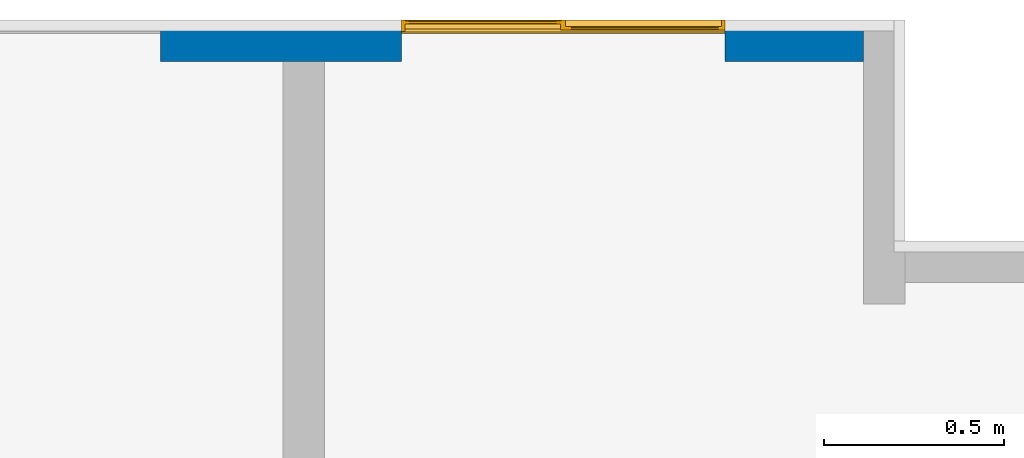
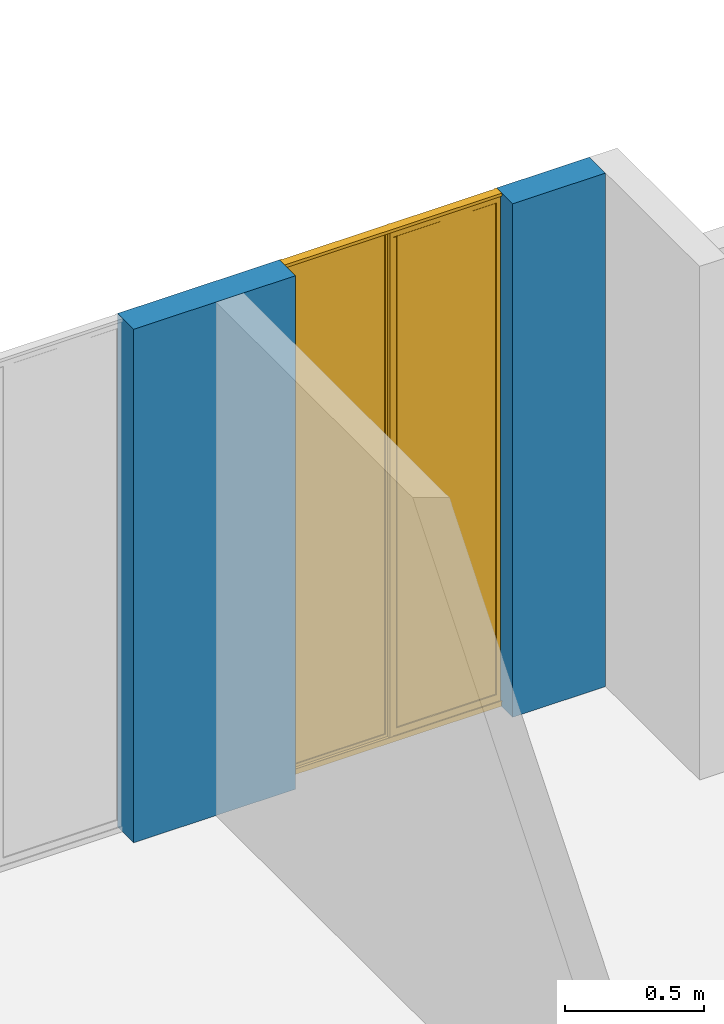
# One storey, part 17 of 47: 1 wall, 1 window, 2 openings.
"""IFC4 building model written with IfcOpenShell, lengths in metres."""

import ifcopenshell
import ifcopenshell.guid

model = None  # the IFC model being written
_history = None  # IfcOwnerHistory: only IFC2X3 demands one
_inside = {}  # id of a spatial element -> (the spatial element, [elements in it])
_under = {}  # id of a project, library or spatial element -> (it, [spatial elements below it])
_declared = {}  # id of a project -> (the project, [libraries it declares])
_typed = {}  # id of a type object -> (the type object, [elements of that type])
_made_of = {}  # id of a material, layer set ... -> (it, [elements and type objects made of it])


def new_model(schema):
    """Start an empty IFC model of exactly this schema.

    Asked for "IFC4X3", IfcOpenShell would pick the latest addendum, in which some entities
    have other attributes; the version numbers below select the first issue.
    IFC2X3 requires an IfcOwnerHistory on every rooted entity: one is made here for all.
    """
    global model, _history
    if schema == "IFC4X3":
        model = ifcopenshell.file(schema_version=(4, 3, 0, 0))
    else:
        model = ifcopenshell.file(schema=schema)
    _inside.clear()
    _under.clear()
    _declared.clear()
    _typed.clear()
    _made_of.clear()
    _history = None
    if model.schema == "IFC2X3":
        org = make("IfcOrganization", Name="unknown")
        user = make(
            "IfcPersonAndOrganization",
            ThePerson=make("IfcPerson", FamilyName="unknown"),
            TheOrganization=org,
        )
        app = make(
            "IfcApplication",
            ApplicationDeveloper=org,
            Version="unknown",
            ApplicationFullName="unknown",
            ApplicationIdentifier="unknown",
        )
        _history = make(
            "IfcOwnerHistory",
            OwningUser=user,
            OwningApplication=app,
            ChangeAction="ADDED",
            CreationDate=0,
        )
    return model


def make(cls, **values):
    """One entity of the class cls with the attributes given. An attribute that is None is left unset."""
    return model.create_entity(
        cls, **{name: value for name, value in values.items() if value is not None}
    )


def entity(cls, *values):
    """Any entity or typed value of the class cls, its attributes in the order of the schema. None: left unset."""
    e = model.create_entity(cls)
    for i, value in enumerate(values):
        if value is not None:
            e[i] = value
    return e


def rooted(cls, **values):
    """An entity with a GlobalId (a new one), such as an element, a storey or a relation."""
    return make(cls, GlobalId=ifcopenshell.guid.new(), OwnerHistory=_history, **values)


def si_unit(unit_type, name, prefix=None):
    """IfcSIUnit, for example si_unit("LENGTHUNIT", "METRE", prefix="MILLI")."""
    return make("IfcSIUnit", UnitType=unit_type, Prefix=prefix, Name=name)


def converted_unit(unit_type, name, factor, base, dimensions=None, offset=None):
    """IfcConversionBasedUnit, such as the inch: factor (a typed value) times the base unit."""
    return make(
        "IfcConversionBasedUnit"
        if offset is None
        else "IfcConversionBasedUnitWithOffset",
        ConversionOffset=offset,
        Dimensions=None
        if dimensions is None
        else entity("IfcDimensionalExponents", *dimensions),
        UnitType=unit_type,
        Name=name,
        ConversionFactor=make(
            "IfcMeasureWithUnit", ValueComponent=factor, UnitComponent=base
        ),
    )


def derived_unit(unit_type, elements):
    """IfcDerivedUnit: a product of units, each with its exponent."""
    return make(
        "IfcDerivedUnit",
        Elements=[
            make("IfcDerivedUnitElement", Unit=unit, Exponent=power)
            for unit, power in elements
        ],
        UnitType=unit_type,
    )


def assignment(units):
    """IfcUnitAssignment: the units of a project."""
    return None if units is None else make("IfcUnitAssignment", Units=units)


def point(xyz):
    """IfcCartesianPoint."""
    return None if xyz is None else make("IfcCartesianPoint", Coordinates=xyz)


def direction(xyz):
    """IfcDirection."""
    return None if xyz is None else make("IfcDirection", DirectionRatios=xyz)


def frame(location, z_axis=None, x_axis=None):
    """IfcAxis2Placement3D, a coordinate frame: its origin and axes. An axis left out is left unset."""
    return make(
        "IfcAxis2Placement3D",
        Location=point(location),
        Axis=direction(z_axis),
        RefDirection=direction(x_axis),
    )


def origin():
    """The frame at (0, 0, 0) with its axes left unset."""
    return frame((0.0, 0.0, 0.0))


def place(relative_to, where):
    """IfcLocalPlacement: puts the frame where relative to a parent placement (None: the world)."""
    return make(
        "IfcLocalPlacement", PlacementRelTo=relative_to, RelativePlacement=where
    )


def context(
    kind, dimensions, precision=None, world=None, true_north=None, identifier=None
):
    """IfcGeometricRepresentationContext, for example the 3D "Model" context."""
    return make(
        "IfcGeometricRepresentationContext",
        ContextIdentifier=identifier,
        ContextType=kind,
        CoordinateSpaceDimension=dimensions,
        Precision=precision,
        WorldCoordinateSystem=world,
        TrueNorth=true_north,
    )


def subcontext(parent, identifier, kind, view, scale=None):
    """IfcGeometricRepresentationSubContext, for example "Body" below "Model"."""
    return make(
        "IfcGeometricRepresentationSubContext",
        ContextIdentifier=identifier,
        ContextType=kind,
        ParentContext=parent,
        TargetScale=scale,
        TargetView=view,
    )


def project(units=None, contexts=None):
    """IfcProject with its units and contexts."""
    return rooted(
        "IfcProject",
        Name="project",
        RepresentationContexts=contexts,
        UnitsInContext=assignment(units),
    )


def spatial(cls, under=None, at=None, **own):
    """A site, building, storey or space (cls), placed at a placement, below another one or the project."""
    s = rooted(cls, ObjectPlacement=at, **own)
    if under is not None:
        _under.setdefault(under.id(), (under, []))[1].append(s)
    return s


def point_list(points):
    """IfcCartesianPointList2D or 3D."""
    cls = (
        "IfcCartesianPointList2D" if len(points[0]) == 2 else "IfcCartesianPointList3D"
    )
    return make(cls, CoordList=points)


def indexed_curve(points, segments=None, self_intersect=None):
    """IfcIndexedPolyCurve: lines and arcs through numbered points (the first is 1)."""
    return make(
        "IfcIndexedPolyCurve",
        Points=point_list(points),
        Segments=segments,
        SelfIntersect=self_intersect,
    )


def outline(outer, holes=None, kind="AREA"):
    """IfcArbitraryClosedProfileDef: a profile drawn as a closed curve; with holes, ...WithVoids."""
    if holes is None:
        return make("IfcArbitraryClosedProfileDef", ProfileType=kind, OuterCurve=outer)
    return make(
        "IfcArbitraryProfileDefWithVoids",
        ProfileType=kind,
        OuterCurve=outer,
        InnerCurves=holes,
    )


def extrude(swept, where, along, depth):
    """IfcExtrudedAreaSolid: the profile swept, set in the frame where, extruded along a direction by depth."""
    return make(
        "IfcExtrudedAreaSolid",
        SweptArea=swept,
        Position=where,
        ExtrudedDirection=direction(along),
        Depth=depth,
    )


def polygons(points, faces, closed=None, point_numbers=None):
    """IfcPolygonalFaceSet: a face is its outer loop, then its inner loops; points numbered from 1."""
    made = []
    for loops in faces:
        if len(loops) == 1:
            made.append(make("IfcIndexedPolygonalFace", CoordIndex=loops[0]))
        else:
            made.append(
                make(
                    "IfcIndexedPolygonalFaceWithVoids",
                    CoordIndex=loops[0],
                    InnerCoordIndices=loops[1:],
                )
            )
    return make(
        "IfcPolygonalFaceSet",
        Coordinates=point_list(points),
        Closed=closed,
        Faces=made,
        PnIndex=point_numbers,
    )


def shape(context_of_items, identifier, shape_type, items):
    """IfcShapeRepresentation: the items that make up one representation, for example the "Body"."""
    return make(
        "IfcShapeRepresentation",
        ContextOfItems=context_of_items,
        RepresentationIdentifier=identifier,
        RepresentationType=shape_type,
        Items=items,
    )


def source(mapping_origin, context_of_items, identifier, shape_type, items):
    """IfcRepresentationMap: a shape defined once, which mapped items show again and again."""
    return make(
        "IfcRepresentationMap",
        MappingOrigin=mapping_origin,
        MappedRepresentation=shape(context_of_items, identifier, shape_type, items),
    )


def transform(
    local_origin,
    x_axis=None,
    y_axis=None,
    z_axis=None,
    scale=None,
    scale2=None,
    scale3=None,
    uniform=True,
):
    """IfcCartesianTransformationOperator3D, or its non-uniform kind. x_axis, y_axis, z_axis: its Axis1, 2, 3."""
    if uniform:
        return make(
            "IfcCartesianTransformationOperator3D",
            Axis1=direction(x_axis),
            Axis2=direction(y_axis),
            LocalOrigin=point(local_origin),
            Scale=scale,
            Axis3=direction(z_axis),
        )
    return make(
        "IfcCartesianTransformationOperator3DnonUniform",
        Axis1=direction(x_axis),
        Axis2=direction(y_axis),
        LocalOrigin=point(local_origin),
        Scale=scale,
        Axis3=direction(z_axis),
        Scale2=scale2,
        Scale3=scale3,
    )


def mapped(mapping_source, mapping_target):
    """IfcMappedItem: shows the shape of a source again, moved by a transform."""
    return make(
        "IfcMappedItem", MappingSource=mapping_source, MappingTarget=mapping_target
    )


def material(Name=None, Category=None):
    """IfcMaterial."""
    return make("IfcMaterial", Name=Name, Category=Category)


def constituent(of_material, Name=None, Category=None, fraction=None):
    """IfcMaterialConstituent: one of the materials an element consists of."""
    return make(
        "IfcMaterialConstituent",
        Name=Name,
        Material=of_material,
        Fraction=fraction,
        Category=Category,
    )


def constituent_set(constituents=None, Name=None):
    """IfcMaterialConstituentSet."""
    return make(
        "IfcMaterialConstituentSet", Name=Name, MaterialConstituents=constituents
    )


def made_of(thing, what):
    """Note that an element or type object is made of a material, layer set ...; save() writes the relation."""
    if what is not None:
        _made_of.setdefault(what.id(), (what, []))[1].append(thing)
    return thing


def type_object(cls, material=None, **own):
    """A type object (cls), such as IfcWallType, which elements share."""
    return made_of(rooted(cls, **own), material)


def type_shapes(of_type, sources):
    """Give a type object the sources (RepresentationMaps) that its elements show as mapped items."""
    of_type.RepresentationMaps = sources


def element(
    cls,
    number,
    at=None,
    inside=None,
    cuts=None,
    type_object=None,
    material=None,
    context=None,
    identifier="Body",
    shape_type=None,
    held_by="IfcProductDefinitionShape",
    body=None,
    shapes=None,
    **own,
):
    """One element of the class cls, such as IfcWall. Its Tag is "e" and its number.

    at: its placement. inside: the storey or other place that contains it. cuts: it is an
    opening in that element (IfcRelVoidsElement). A single representation is given by context,
    identifier, shape_type and body (its items); several are given by shapes. held_by: the class
    of the entity that holds the representations. save() writes the other relations.
    """
    e = rooted(cls, Tag="e%d" % number, ObjectPlacement=at, **own)
    if body is not None:
        shapes = [shape(context, identifier, shape_type, body)]
    if shapes is not None:
        e.Representation = make(held_by, Representations=shapes)
    if inside is not None:
        _inside.setdefault(inside.id(), (inside, []))[1].append(e)
    if cuts is not None:
        rooted(
            "IfcRelVoidsElement", RelatingBuildingElement=cuts, RelatedOpeningElement=e
        )
    if type_object is not None:
        _typed.setdefault(type_object.id(), (type_object, []))[1].append(e)
    return made_of(e, material)


def fill(opening, filler):
    """IfcRelFillsElement: the door or window that sits in an opening."""
    return rooted(
        "IfcRelFillsElement",
        RelatingOpeningElement=opening,
        RelatedBuildingElement=filler,
    )


def aggregate(whole, parts):
    """IfcRelAggregates: a whole, such as a stair, and the parts it consists of."""
    return rooted("IfcRelAggregates", RelatingObject=whole, RelatedObjects=parts)


def save(model, path):
    """Write the relations noted so far, then the file.

    IfcRelAggregates (storeys below a building ...), IfcRelContainedInSpatialStructure (elements
    in a storey), IfcRelDefinesByType, IfcRelAssociatesMaterial and IfcRelDeclares: one each for
    every whole, place, type object, material and project.
    """
    for whole, parts in _under.values():
        aggregate(whole, parts)
    for where, things in _inside.values():
        rooted(
            "IfcRelContainedInSpatialStructure",
            RelatedElements=things,
            RelatingStructure=where,
        )
    for kind, things in _typed.values():
        rooted("IfcRelDefinesByType", RelatedObjects=things, RelatingType=kind)
    for what, things in _made_of.values():
        rooted("IfcRelAssociatesMaterial", RelatedObjects=things, RelatingMaterial=what)
    for by, libraries in _declared.values():
        rooted("IfcRelDeclares", RelatingContext=by, RelatedDefinitions=libraries)
    model.write(path)


model = new_model("IFC4")

# Units and contexts
model_context = context("Model", 3, precision=1e-05, world=origin(), true_north=direction((6.123031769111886e-17, 1.0)))
body_context = subcontext(model_context, "Body", "Model", "MODEL_VIEW")
ifc_project = project(units=[si_unit("LENGTHUNIT", "METRE"), si_unit("AREAUNIT", "SQUARE_METRE"), si_unit("VOLUMEUNIT", "CUBIC_METRE"), converted_unit("PLANEANGLEUNIT", "DEGREE", entity("IfcRatioMeasure", 0.017453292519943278), si_unit("PLANEANGLEUNIT", "RADIAN"), dimensions=[0, 0, 0, 0, 0, 0, 0]), si_unit("MASSUNIT", "GRAM", prefix="KILO"), derived_unit("MASSDENSITYUNIT", [(si_unit("MASSUNIT", "GRAM", prefix="KILO"), 1), (si_unit("LENGTHUNIT", "METRE"), -3)]), derived_unit("IONCONCENTRATIONUNIT", [(si_unit("MASSUNIT", "GRAM", prefix="KILO"), 1), (si_unit("LENGTHUNIT", "METRE"), -3)]), derived_unit("MOMENTOFINERTIAUNIT", [(si_unit("LENGTHUNIT", "METRE"), 4)]), si_unit("TIMEUNIT", "SECOND"), si_unit("FREQUENCYUNIT", "HERTZ"), si_unit("THERMODYNAMICTEMPERATUREUNIT", "DEGREE_CELSIUS"), derived_unit("THERMALTRANSMITTANCEUNIT", [(si_unit("MASSUNIT", "GRAM", prefix="KILO"), 1), (si_unit("THERMODYNAMICTEMPERATUREUNIT", "KELVIN"), -1), (si_unit("TIMEUNIT", "SECOND"), -3)]), derived_unit("THERMALCONDUCTANCEUNIT", [(si_unit("MASSUNIT", "GRAM", prefix="KILO"), 1), (si_unit("THERMODYNAMICTEMPERATUREUNIT", "KELVIN"), -1), (si_unit("TIMEUNIT", "SECOND"), -3), (si_unit("LENGTHUNIT", "METRE"), 1)]), derived_unit("VOLUMETRICFLOWRATEUNIT", [(si_unit("LENGTHUNIT", "METRE"), 3), (si_unit("TIMEUNIT", "SECOND"), -1)]), derived_unit("MASSFLOWRATEUNIT", [(si_unit("MASSUNIT", "GRAM", prefix="KILO"), 1), (si_unit("TIMEUNIT", "SECOND"), -1)]), derived_unit("ROTATIONALFREQUENCYUNIT", [(si_unit("TIMEUNIT", "SECOND"), -1)]), si_unit("ELECTRICCURRENTUNIT", "AMPERE"), si_unit("ELECTRICVOLTAGEUNIT", "VOLT"), si_unit("POWERUNIT", "WATT"), si_unit("FORCEUNIT", "NEWTON", prefix="KILO"), si_unit("ILLUMINANCEUNIT", "LUX"), si_unit("LUMINOUSFLUXUNIT", "LUMEN"), si_unit("LUMINOUSINTENSITYUNIT", "CANDELA"), derived_unit("USERDEFINED", [(si_unit("MASSUNIT", "GRAM", prefix="KILO"), -1), (si_unit("LENGTHUNIT", "METRE"), -2), (si_unit("TIMEUNIT", "SECOND"), 3), (si_unit("LUMINOUSFLUXUNIT", "LUMEN"), 1)]), derived_unit("USERDEFINED", [(si_unit("MASSUNIT", "GRAM", prefix="KILO"), 1), (si_unit("TIMEUNIT", "SECOND"), -3), (si_unit("LENGTHUNIT", "METRE"), 3), (si_unit("ELECTRICCURRENTUNIT", "AMPERE"), -2)]), derived_unit("SOUNDPOWERUNIT", [(si_unit("MASSUNIT", "GRAM", prefix="KILO"), 1), (si_unit("TIMEUNIT", "SECOND"), -3), (si_unit("LENGTHUNIT", "METRE"), 2)]), derived_unit("SOUNDPRESSUREUNIT", [(si_unit("MASSUNIT", "GRAM", prefix="KILO"), 1), (si_unit("LENGTHUNIT", "METRE"), -1), (si_unit("TIMEUNIT", "SECOND"), -2)]), derived_unit("LINEARVELOCITYUNIT", [(si_unit("LENGTHUNIT", "METRE"), 1), (si_unit("TIMEUNIT", "SECOND"), -1)]), si_unit("PRESSUREUNIT", "PASCAL"), derived_unit("USERDEFINED", [(si_unit("MASSUNIT", "GRAM", prefix="KILO"), 1), (si_unit("LENGTHUNIT", "METRE"), -2), (si_unit("TIMEUNIT", "SECOND"), -2)]), derived_unit("LINEARFORCEUNIT", [(si_unit("MASSUNIT", "GRAM", prefix="KILO"), 1), (si_unit("TIMEUNIT", "SECOND"), -2)]), derived_unit("PLANARFORCEUNIT", [(si_unit("MASSUNIT", "GRAM", prefix="KILO"), 1), (si_unit("LENGTHUNIT", "METRE"), -1), (si_unit("TIMEUNIT", "SECOND"), -2)]), derived_unit("SPECIFICHEATCAPACITYUNIT", [(si_unit("THERMODYNAMICTEMPERATUREUNIT", "KELVIN"), -1), (si_unit("LENGTHUNIT", "METRE"), 2), (si_unit("TIMEUNIT", "SECOND"), -2)]), derived_unit("HEATINGVALUEUNIT", [(si_unit("LENGTHUNIT", "METRE"), 2), (si_unit("TIMEUNIT", "SECOND"), -2)]), derived_unit("VAPORPERMEABILITYUNIT", [(si_unit("LENGTHUNIT", "METRE"), -1), (si_unit("TIMEUNIT", "SECOND"), 1)]), derived_unit("DYNAMICVISCOSITYUNIT", [(si_unit("MASSUNIT", "GRAM", prefix="KILO"), 1), (si_unit("TIMEUNIT", "SECOND"), -1), (si_unit("LENGTHUNIT", "METRE"), -1)]), derived_unit("THERMALEXPANSIONCOEFFICIENTUNIT", [(si_unit("THERMODYNAMICTEMPERATUREUNIT", "KELVIN"), -1)]), derived_unit("MODULUSOFELASTICITYUNIT", [(si_unit("MASSUNIT", "GRAM", prefix="KILO"), 1), (si_unit("LENGTHUNIT", "METRE"), -1), (si_unit("TIMEUNIT", "SECOND"), -2)]), derived_unit("ISOTHERMALMOISTURECAPACITYUNIT", [(si_unit("LENGTHUNIT", "METRE"), 3), (si_unit("MASSUNIT", "GRAM", prefix="KILO"), -1)]), derived_unit("MOISTUREDIFFUSIVITYUNIT", [(si_unit("TIMEUNIT", "SECOND"), -1), (si_unit("LENGTHUNIT", "METRE"), 2)])], contexts=[model_context])

# Site, building, storey
site_placement = place(None, origin())
site = spatial("IfcSite", under=ifc_project, at=site_placement, Name="Default", CompositionType="ELEMENT")
building_placement = place(site_placement, origin())
building = spatial("IfcBuilding", under=site, at=building_placement, CompositionType="ELEMENT")
storey_placement = place(building_placement, frame((0.0, 0.0, 11.750000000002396)))
storey = spatial("IfcBuildingStorey", under=building, at=storey_placement, Name="Nivel 6", CompositionType="ELEMENT", Elevation=11.750000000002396)

# Wall, openings, window
ifc_material_1 = material(Name="Ladrillo claro (Aire)", Category="Materials")
wall_type = type_object("IfcWallType", Name="Basic Wall:B2010 - 0.115m - Muro exterior en mampostería - Ladrillo", PredefinedType="STANDARD")
wall_placement = place(storey_placement, frame((6.067499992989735, -0.037500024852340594, 0.0), z_axis=(0.0, 0.0, 1.0), x_axis=(-1.0, 0.0, 0.0)))
wall = element("IfcWall", 1, at=wall_placement, inside=storey, type_object=wall_type, material=ifc_material_1, Name="Basic Wall:B2010 - 0.115m - Muro exterior en mampostería - Ladrillo", ObjectType="Basic Wall:B2010 - 0.115m - Muro exterior en mampostería - Ladrillo", PredefinedType="NOTDEFINED", context=body_context, shape_type="Tessellation", body=[
    polygons([(1.7657632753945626e-17, -0.05750000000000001, 2.250000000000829), (1.1005247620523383e-15, -0.05750000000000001, -2.1657342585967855e-15), (0.3850000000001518, -0.05750000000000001, -2.1657342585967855e-15), (0.3850000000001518, -0.05750000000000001, 2.250000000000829), (2.0818603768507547e-15, 0.05749999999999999, -2.1657342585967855e-15), (0.3850000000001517, 0.05749999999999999, -2.1657342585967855e-15), (0.3850000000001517, 0.05749999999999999, 2.250000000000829), (9.989932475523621e-16, 0.05749999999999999, 2.250000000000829)], [[[1, 2, 3, 4]], [[2, 5, 6, 3]], [[4, 3, 6, 7]], [[2, 1, 8, 5]], [[8, 1, 4, 7]], [[5, 8, 7, 6]]], closed=True),
    polygons([(1.955799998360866, 0.05749999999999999, 2.250000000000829), (1.955799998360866, 0.05749999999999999, -2.1657342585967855e-15), (1.6149999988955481, 0.05749999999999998, -2.1657342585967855e-15), (1.4999999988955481, 0.05749999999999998, -2.1657342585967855e-15), (1.2850000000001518, 0.05749999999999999, -2.1657342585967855e-15), (1.2850000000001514, 0.05749999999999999, 2.250000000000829), (1.4999999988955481, 0.05749999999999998, 2.2500000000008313), (1.6149999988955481, 0.05749999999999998, 2.2500000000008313), (1.955799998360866, -0.05750000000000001, 2.250000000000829), (1.2850000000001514, -0.05750000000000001, 2.250000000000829), (1.955799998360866, -0.05750000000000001, -2.1657342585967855e-15), (1.2850000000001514, -0.05750000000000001, -2.1657342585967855e-15)], [[[1, 2, 3, 4, 5, 6, 7, 8]], [[9, 1, 8, 7, 6, 10]], [[9, 11, 2, 1]], [[12, 10, 6, 5]], [[2, 11, 12, 5, 4, 3]], [[11, 9, 10, 12]]], closed=True),
])
opening_1_placement = place(wall_placement, frame((1.9557999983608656, -0.057500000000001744, 0.0)))
element("IfcOpeningElement", 2, at=opening_1_placement, cuts=wall, Name="B2020 - Ventana corrediza 2C - Aluminio + Vidrio:B2020 - 1.02m x 2.25m - Ventana corrediza 2C - Aluminio + Vidrio:1", PredefinedType="OPENING", context=body_context, shape_type="SweptSolid", body=[
    extrude(outline(indexed_curve([(0.0, 1.0199999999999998), (0.0, 0.0), (2.2499999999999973, 0.0), (2.249999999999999, 1.0199999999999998), (0.0, 1.0199999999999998)], self_intersect=False)), frame((0.0, 0.0, 0.0), z_axis=(0.0, 1.0, 0.0), x_axis=(0.0, 0.0, 1.0)), (0.0, 0.0, 1.0), 0.115),
])
opening_2_placement = place(wall_placement, frame((0.3850000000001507, -0.05750000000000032, 0.0)))
opening_2 = element("IfcOpeningElement", 3, at=opening_2_placement, cuts=wall, Name="B2020 - Ventana corrediza 2C - Aluminio + Vidrio:B2020 - 0.90m x 2.25m - Ventana corrediza 2C - Aluminio + Vidrio:1", PredefinedType="OPENING", context=body_context, shape_type="SweptSolid", body=[
    extrude(outline(indexed_curve([(0.0, 0.9), (0.0, 0.0), (2.2499999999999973, 0.0), (2.249999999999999, 0.9), (0.0, 0.9)], self_intersect=False)), frame((0.0, 0.0, 0.0), z_axis=(0.0, 1.0, 0.0), x_axis=(0.0, 0.0, 1.0)), (0.0, 0.0, 1.0), 0.115),
])
ifc_material_2 = material(Name="Vidrio", Category="Materials")
ifc_constituent_1 = constituent(ifc_material_2, Name="Vidrio", Category="Materials")
ifc_material_3 = material(Name="<Unnamed>")
ifc_constituent_2 = constituent(ifc_material_3, Name="<Unnamed>")
ifc_constituent_set_1 = constituent_set(constituents=[ifc_constituent_1, ifc_constituent_2])
ifc_constituent_3 = constituent(ifc_material_2, Name="Vidrio", Category="Materials")
ifc_constituent_4 = constituent(ifc_material_3, Name="<Unnamed>")
ifc_constituent_set_2 = constituent_set(constituents=[ifc_constituent_3, ifc_constituent_4])
window_type = type_object("IfcWindowType", Name="B2020 - Ventana corrediza 2C - Aluminio + Vidrio:B2020 - 0.90m x 2.25m - Ventana corrediza 2C - Aluminio + Vidrio", PartitioningType="NOTDEFINED", PredefinedType="WINDOW", material=ifc_constituent_set_2)
shared_shape = source(origin(), body_context, "Body", "Tessellation", [
    polygons([(0.4298128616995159, 0.11062877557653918, 0.028641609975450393), (0.4298128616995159, 0.10552744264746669, 0.028641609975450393), (0.019967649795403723, 0.10552744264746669, 0.028641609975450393), (0.019967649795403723, 0.11062877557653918, 0.028641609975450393), (0.4298128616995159, 0.11062877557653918, 2.2347073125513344), (0.4298128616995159, 0.10552744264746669, 2.2347073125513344), (0.019967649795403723, 0.10552744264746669, 2.2347073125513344), (0.019967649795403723, 0.11062877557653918, 2.2347073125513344)], [[[1, 2, 3, 4]], [[5, 6, 2, 1]], [[6, 7, 3, 2]], [[7, 8, 4, 3]], [[8, 5, 1, 4]], [[5, 8, 7, 6]]], closed=True),
    polygons([(0.8811536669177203, 0.09380899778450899, 0.054189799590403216), (0.8811536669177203, 0.0895130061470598, 0.054189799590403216), (0.47172894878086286, 0.0895130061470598, 0.054189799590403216), (0.47172894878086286, 0.09380899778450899, 0.054189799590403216), (0.8811536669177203, 0.09380899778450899, 2.2043993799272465), (0.8811536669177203, 0.0895130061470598, 2.2043993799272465), (0.47172894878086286, 0.0895130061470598, 2.2043993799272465), (0.47172894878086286, 0.09380899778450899, 2.2043993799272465)], [[[1, 2, 3, 4]], [[5, 6, 2, 1]], [[6, 7, 3, 2]], [[7, 8, 4, 3]], [[8, 5, 1, 4]], [[5, 8, 7, 6]]], closed=True),
    polygons([(0.9, 0.07999999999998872, 0.020380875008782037), (0.9, 0.07999999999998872, -2.5718094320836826e-15), (0.9000000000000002, 0.1149999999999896, -2.5718094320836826e-15), (0.9, 0.1150000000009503, 2.2499999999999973), (0.9000000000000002, 0.07720993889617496, 2.2499999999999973), (0.9000000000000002, 0.07720993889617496, 2.2365872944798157), (0.9000000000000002, 0.07857307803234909, 2.2365872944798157), (0.9000000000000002, 0.07857307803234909, 2.24863686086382), (0.9, 0.08683610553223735, 2.24863686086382), (0.9, 0.08683610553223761, 0.017447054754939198), (0.9, 0.08124999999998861, 0.017447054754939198), (0.9, 0.08124999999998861, 0.02163087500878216), (0.9, 0.078577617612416, 0.02163087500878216), (0.9, 0.078577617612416, 0.025674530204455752), (0.9, 0.077327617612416, 0.025674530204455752), (0.9, 0.077327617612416, 0.020380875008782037), (1.353583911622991e-16, 0.07999999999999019, 0.020380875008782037), (1.353583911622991e-16, 0.07999999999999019, -2.5718094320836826e-15), (2.0303758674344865e-16, 0.11499999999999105, -2.5718094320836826e-15), (0.44335450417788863, 0.1149999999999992, 2.2499999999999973), (0.45664549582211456, 0.11499999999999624, 2.2499999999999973), (0.45664549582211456, 0.1149999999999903, 0.006176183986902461), (0.8901022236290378, 0.1149999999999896, 0.006176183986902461), (0.890102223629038, 0.1150000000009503, 2.2499999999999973), (1.353583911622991e-16, 0.1150000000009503, 2.2499999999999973), (0.009999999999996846, 0.11500000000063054, 2.2499999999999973), (0.009999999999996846, 0.11499999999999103, 0.006176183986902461), (0.44335450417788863, 0.11499999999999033, 0.006176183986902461), (0.883701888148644, 0.08683610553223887, 2.2069861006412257), (0.8837018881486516, 0.08683610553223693, 0.0519155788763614), (0.46918072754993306, 0.08683610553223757, 0.0519155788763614), (0.46918072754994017, 0.08683610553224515, 2.2043993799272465), (0.45664549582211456, 0.08683610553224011, 2.2043993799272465), (0.45664549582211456, 0.08683610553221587, 2.2069861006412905), (0.8837018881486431, 0.08683610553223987, 2.237270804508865), (0.45664549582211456, 0.08683610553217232, 2.237270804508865), (0.45664549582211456, 0.08683610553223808, 2.24863686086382), (0.4419528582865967, 0.08683610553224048, 2.24863686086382), (0.4419528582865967, 0.08683610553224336, 0.01744705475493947), (0.45664549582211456, 0.08683610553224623, 0.017447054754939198), (0.45664549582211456, 0.08683610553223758, 0.021630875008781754), (0.8962371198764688, 0.08683610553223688, 0.02163087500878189), (0.8962371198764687, 0.08683610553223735, 0.01744705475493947), (0.8837018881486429, 0.08683610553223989, 2.24863686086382), (1.353583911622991e-16, 0.08124999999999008, 0.017447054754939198), (0.8962371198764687, 0.09036136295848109, 0.017447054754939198), (0.45664549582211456, 0.09036136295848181, 0.017447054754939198), (0.4419528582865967, 0.09036136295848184, 0.017447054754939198), (0.009999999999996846, 0.09036136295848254, 0.017447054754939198), (0.009999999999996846, 0.08300000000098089, 0.017447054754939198), (2.0303758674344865e-16, 0.08300000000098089, 0.017447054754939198), (1.353583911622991e-16, 0.08124999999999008, 0.02163087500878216), (1.353583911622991e-16, 0.07857761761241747, 0.02163087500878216), (1.353583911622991e-16, 0.07857761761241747, 0.025674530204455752), (1.353583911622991e-16, 0.07732761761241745, 0.025674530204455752), (1.353583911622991e-16, 0.07732761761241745, 0.020380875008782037), (0.8811570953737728, 0.09380711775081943, 0.054191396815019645), (0.8837018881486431, 0.09648589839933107, 0.051915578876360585), (0.4691807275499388, 0.09648589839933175, 0.051915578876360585), (0.47172276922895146, 0.09380452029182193, 0.054191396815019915), (0.8837018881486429, 0.09648589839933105, 2.237270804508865), (0.8811536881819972, 0.09378706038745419, 2.237270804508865), (0.8811536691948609, 0.09378696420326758, 2.24863686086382), (0.8837018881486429, 0.09648589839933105, 2.24863686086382), (0.8837018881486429, 0.096485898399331, 2.2069861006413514), (0.45664549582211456, 0.09648589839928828, 2.2069861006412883), (0.45664549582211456, 0.09648589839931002, 2.237270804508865), (0.890102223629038, 0.09648589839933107, 2.24863686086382), (0.8901022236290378, 0.09648589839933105, 0.021630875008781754), (0.45664549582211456, 0.09648589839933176, 0.02163087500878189), (0.45664549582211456, 0.0964858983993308, 2.2043993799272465), (0.46918072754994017, 0.0964858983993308, 2.2043993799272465), (0.47172894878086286, 0.09379974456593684, 2.2043993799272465), (0.881159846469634, 0.08951748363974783, 0.05419139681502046), (0.47172552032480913, 0.08951488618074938, 0.054191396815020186), (0.8811537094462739, 0.08953496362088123, 2.237270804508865), (0.8811536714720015, 0.08953504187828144, 2.24863686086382), (0.47172894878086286, 0.08952215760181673, 2.204399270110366), (0.4419528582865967, 0.10334183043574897, 2.24863686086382), (0.4419528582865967, 0.10334183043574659, 0.014402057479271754), (0.4419528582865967, 0.09363692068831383, 0.014402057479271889), (0.4419528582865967, 0.09363692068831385, 0.010600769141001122), (0.4419528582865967, 0.09036136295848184, 0.011279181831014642), (0.45664549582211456, 0.11281438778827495, 2.2499999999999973), (0.45664549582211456, 0.11281438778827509, 2.2369062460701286), (0.45664549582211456, 0.11061545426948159, 2.2347073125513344), (0.45664549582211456, 0.10554076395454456, 2.2347073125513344), (0.45664549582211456, 0.10334183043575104, 2.2369062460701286), (0.45664549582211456, 0.10334183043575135, 2.24863686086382), (0.45664549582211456, 0.09380888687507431, 2.204399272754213), (0.45664549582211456, 0.09036136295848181, 0.011279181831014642), (0.8962371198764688, 0.09648589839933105, 0.02163087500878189), (0.8962371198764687, 0.09648589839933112, 0.010010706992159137), (0.8962371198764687, 0.09036136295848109, 0.011279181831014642), (0.890102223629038, 0.09648589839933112, 0.010010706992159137), (0.8901022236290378, 0.10334183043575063, 2.24863686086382), (0.890102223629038, 0.10334183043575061, 2.2369062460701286), (0.8901022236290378, 0.10554076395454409, 2.234707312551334), (0.8901022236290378, 0.11061545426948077, 2.234707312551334), (0.8901022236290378, 0.11281438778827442, 2.2369062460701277), (0.8901022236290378, 0.11281438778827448, 2.2499999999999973), (1.353583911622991e-16, 0.08300000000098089, 2.24863686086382), (1.353583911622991e-16, 0.07857307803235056, 2.24863686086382), (1.353583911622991e-16, 0.07857307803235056, 2.2365872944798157), (1.353583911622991e-16, 0.07720993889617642, 2.2365872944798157), (2.0303758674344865e-16, 0.07720993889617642, 2.2499999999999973), (0.009999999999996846, 0.08300000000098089, 2.24863686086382), (0.009999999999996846, 0.09036136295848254, 0.011279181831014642), (0.009999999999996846, 0.09363692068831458, 0.010600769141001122), (0.009999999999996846, 0.09363692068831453, 0.014402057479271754), (0.009999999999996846, 0.10334183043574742, 0.014402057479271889), (0.009999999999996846, 0.10334183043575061, 2.24863686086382), (0.44335450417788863, 0.11281438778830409, 0.006628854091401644), (0.44335450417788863, 0.112814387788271, 2.2499999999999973), (0.009999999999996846, 0.11281438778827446, 2.2499999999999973), (0.009999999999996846, 0.11281438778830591, 0.0066288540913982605), (0.4323610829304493, 0.11281438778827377, 0.026824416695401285), (0.42981286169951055, 0.1106287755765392, 0.028641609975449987), (0.4298128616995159, 0.1106287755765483, 2.2347139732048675), (0.43236108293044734, 0.112814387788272, 2.236906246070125), (0.01996764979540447, 0.11062877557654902, 0.028641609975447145), (0.01741942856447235, 0.11281438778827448, 0.026824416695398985), (0.01741942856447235, 0.11281438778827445, 2.236906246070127), (0.019967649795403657, 0.11062877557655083, 2.2347139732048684), (0.019967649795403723, 0.10552744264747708, 0.028641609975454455), (0.01741942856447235, 0.10334183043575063, 0.026824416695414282), (0.43236108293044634, 0.10334183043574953, 0.02682441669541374), (0.4298128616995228, 0.10552744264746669, 0.028641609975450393), (0.01996880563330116, 0.10553009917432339, 2.234711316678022), (0.017419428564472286, 0.10334183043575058, 2.2369062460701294), (0.432361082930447, 0.10334183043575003, 2.2369062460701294), (0.4298117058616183, 0.10553009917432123, 2.234711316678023), (0.8811537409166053, 0.09378737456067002, 2.2043889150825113), (0.8811555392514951, 0.08953032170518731, 2.2043931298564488), (0.45664549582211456, 0.08951317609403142, 2.204399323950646)], [[[1, 2, 3, 4, 5, 6, 7, 8, 9, 10, 11, 12, 13, 14, 15, 16]], [[17, 18, 2, 1]], [[2, 18, 19, 3]], [[20, 21, 22, 23, 24, 4, 3, 19, 25, 26, 27, 28]], [[35, 36, 37, 38, 39, 40, 41, 42, 43, 10, 9, 44], [29, 30, 31, 32, 33, 34]], [[45, 11, 10, 43, 46, 47, 40, 39, 48, 49, 50, 51]], [[45, 52, 12, 11]], [[52, 53, 13, 12]], [[53, 54, 14, 13]], [[54, 55, 15, 14]], [[55, 56, 16, 15]], [[56, 17, 1, 16]], [[57, 58, 59, 60]], [[61, 62, 63, 64]], [[58, 65, 66, 67, 61, 64, 68, 69, 70, 71, 72, 59]], [[72, 73, 60, 59]], [[74, 57, 60, 75]], [[62, 76, 77, 63]], [[60, 73, 78, 75]], [[30, 74, 75, 31]], [[76, 35, 44, 77]], [[78, 32, 31, 75]], [[48, 39, 38, 79, 80, 81, 82, 83]], [[22, 21, 84, 85, 86, 87, 88, 89, 37, 36, 67, 66, 90, 71, 70, 41, 40, 47, 91]], [[41, 70, 69, 92, 42]], [[92, 93, 94, 46, 43, 42]], [[69, 95, 93, 92]], [[24, 23, 95, 69, 68, 96, 97, 98, 99, 100, 101]], [[17, 56, 55, 54, 53, 52, 45, 51, 102, 103, 104, 105, 106, 25, 19, 18]], [[51, 50, 107, 102]], [[48, 83, 108, 49]], [[50, 49, 108, 109, 110, 111, 112, 107]], [[83, 82, 109, 108]], [[113, 114, 20, 28]], [[26, 115, 116, 27]], [[84, 101, 100, 85]], [[82, 81, 110, 109]], [[117, 118, 119, 120]], [[121, 122, 123, 124]], [[122, 121, 118, 117]], [[125, 126, 127, 128]], [[88, 97, 96, 89]], [[126, 125, 129, 130]], [[128, 127, 131, 132]], [[81, 80, 111, 110]], [[125, 121, 124, 129]], [[121, 125, 128, 118]], [[118, 128, 132, 119]], [[5, 4, 24, 101, 84, 21, 20, 114, 115, 26, 25, 106]], [[65, 133, 73, 90, 66]], [[133, 134, 78, 73]], [[134, 29, 34, 135, 78]], [[76, 62, 61, 67, 36, 35]], [[33, 32, 78, 135]], [[104, 103, 8, 7]], [[105, 104, 7, 6]], [[106, 105, 6, 5]], [[123, 120, 119, 124]], [[132, 129, 124, 119]], [[131, 130, 129, 132]], [[8, 103, 102, 107, 112, 79, 38, 37, 89, 96, 68, 64, 63, 77, 44, 9]], [[87, 98, 97, 88]], [[86, 99, 98, 87]], [[85, 100, 99, 86]], [[73, 72, 71, 90]], [[111, 80, 79, 112], [127, 126, 130, 131]], [[115, 114, 113, 116], [117, 120, 123, 122]], [[113, 28, 27, 116]], [[22, 91, 94, 93, 95, 23]], [[91, 47, 46, 94]], [[135, 34, 33]], [[74, 30, 29, 134]], [[57, 74, 134, 133]], [[58, 57, 133, 65]]], closed=True),
])
type_shapes(window_type, [shared_shape])
window_placement = place(opening_2_placement, frame((0.9000000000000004, 0.11499999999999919, 0.0), z_axis=(0.0, 0.0, 1.0), x_axis=(-1.0, 0.0, 0.0)))
window = element("IfcWindow", 4, at=window_placement, inside=storey, type_object=window_type, material=ifc_constituent_set_1, Name="B2020 - Ventana corrediza 2C - Aluminio + Vidrio:B2020 - 0.90m x 2.25m - Ventana corrediza 2C - Aluminio + Vidrio", ObjectType="B2020 - Ventana corrediza 2C - Aluminio + Vidrio:B2020 - 0.90m x 2.25m - Ventana corrediza 2C - Aluminio + Vidrio", OverallHeight=2.2499999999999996, OverallWidth=0.9, PartitioningType="NOTDEFINED", PredefinedType="WINDOW", context=body_context, shape_type="MappedRepresentation", body=[
    mapped(shared_shape, transform((0.0, 0.0, 0.0), scale=1.0)),
])
fill(opening_2, window)

save(model, "model.ifc")
